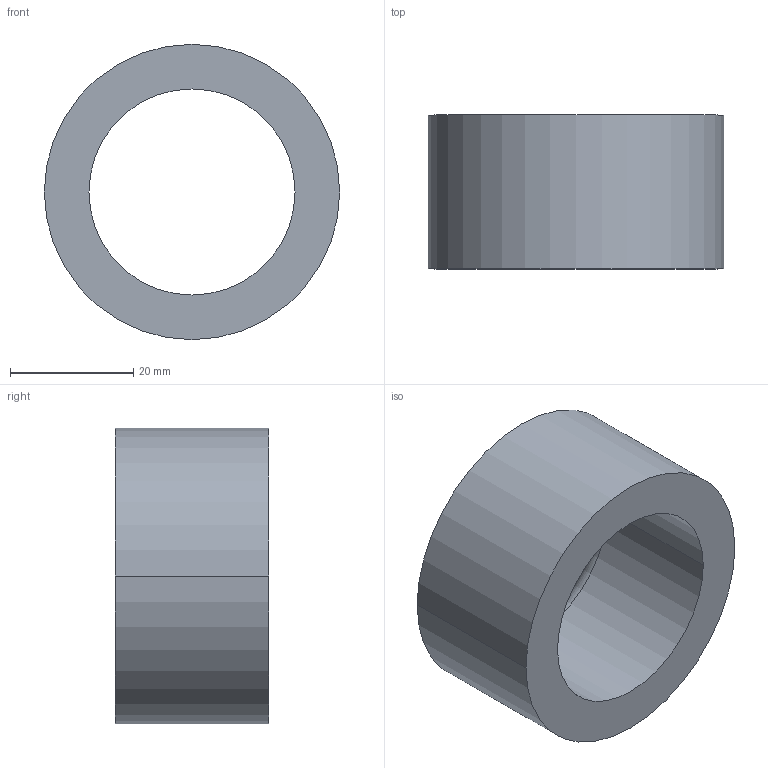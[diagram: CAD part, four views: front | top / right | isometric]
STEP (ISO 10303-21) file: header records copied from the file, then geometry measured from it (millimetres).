
FILE_DESCRIPTION (( 'STEP AP203' ), '1' );
FILE_NAME ('30800.WPP48J33.5.step', '2019-01-23T22:52:49', ( '' ), ( '' ), 'SwSTEP 2.0', 'SolidWorks 2017', '' );
FILE_SCHEMA (( 'CONFIG_CONTROL_DESIGN' ));
Length unit declared in the file: millimetre
Products named in the file (1): 30800.WPP48J33.5
Bounding box: 48 x 25 x 48 mm (x, y, z)
Volume: 22992.2 mm3; surface area: 8125.8 mm2
Topology: 1 solids, 1 shells, 8 faces, 16 edges, 10 vertices
Faces by surface type: cylinder 4, torus 2, plane 2
Entity records: 297 total; most frequent: DIRECTION 46, CARTESIAN_POINT 35, ORIENTED_EDGE 32, AXIS2_PLACEMENT_3D 21, EDGE_CURVE 16, CIRCLE 12, VERTEX_POINT 10, EDGE_LOOP 10
